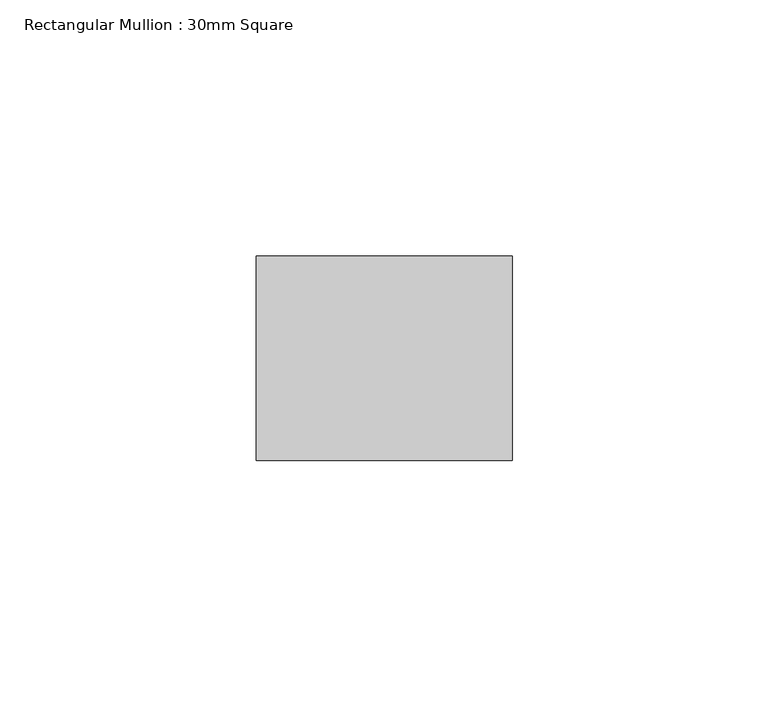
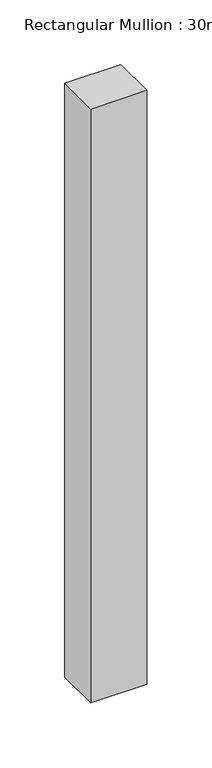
"""IFC4 building model written with IfcOpenShell, lengths in millimetres: member geometry, Rectangular Mullion : 30mm Square."""

from ifc_helpers import new_model, si_unit, frame, origin, place, context, project, spatial, polyline, outline, extrude, source, transform, mapped, element, save


def rectangular_mullion_30mm_square_e0b9fe8b(model_context):
    return source(origin(), model_context, "Body", "SweptSolid", [
        extrude(outline(polyline([(0.0, 20.0), (0.0, -20.0), (-50.0, -20.0), (-50.0, 20.0), (0.0, 20.0)])), frame((0.0, 0.0, -560.0), z_axis=(0.0, 0.0, 1.0), x_axis=(1.0, 0.0, 0.0)), (0.0, 0.0, 1.0), 560.0),
    ])


if __name__ == "__main__":
    model = new_model("IFC4")
    model_context = context("Model", 3, world=origin())
    ifc_project = project(units=[si_unit("LENGTHUNIT", "METRE", prefix="MILLI")], contexts=[model_context])
    site = spatial("IfcSite", under=ifc_project)
    building = spatial("IfcBuilding", under=site)
    placement = place(None, origin())
    rectangular_mullion_30mm_square_shape = rectangular_mullion_30mm_square_e0b9fe8b(model_context)
    element("IfcMember", 1, ObjectType="Rectangular Mullion : 30mm Square", at=placement, inside=building, context=model_context, shape_type="MappedRepresentation", body=[
        mapped(rectangular_mullion_30mm_square_shape, transform((0.0, 0.0, 0.0), x_axis=(1.0, 0.0, 0.0), y_axis=(0.0, 1.0, 0.0), z_axis=(0.0, 0.0, 1.0))),
    ])
    save(model, "model.ifc")
